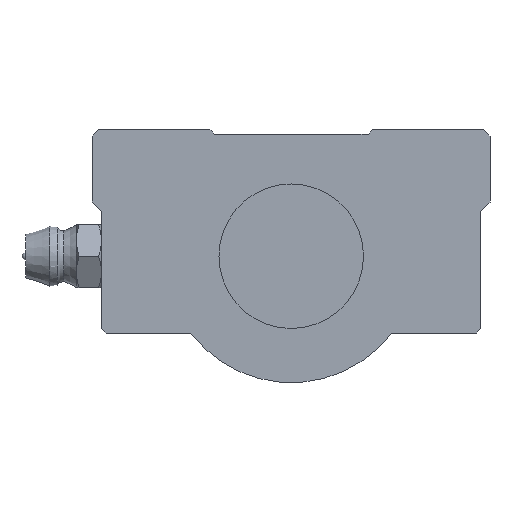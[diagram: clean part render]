
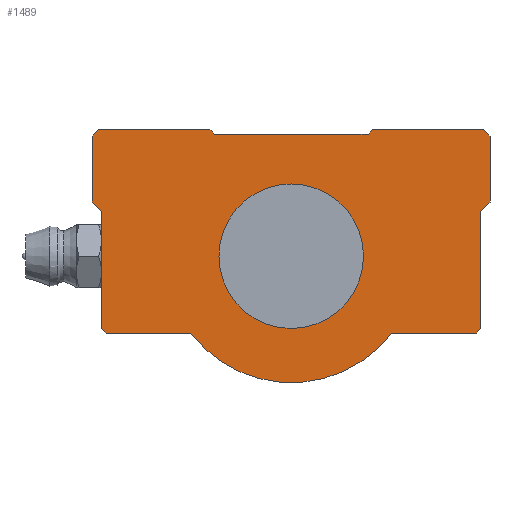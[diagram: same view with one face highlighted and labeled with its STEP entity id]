
A CAD part, left-side view. The second image highlights one B-rep face of the part: STEP entity #1489.
In plain terms, the highlighted planar face has unit normal (-1, 0, 0).
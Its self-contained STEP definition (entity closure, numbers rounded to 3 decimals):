
#1094=CARTESIAN_POINT('',(130.0,20.5,-8.5));
#1095=VERTEX_POINT('',#1094);
#1102=CARTESIAN_POINT('',(130.0,21.,-8.));
#1103=VERTEX_POINT('',#1102);
#1104=CARTESIAN_POINT('',(130.0,20.5,-8.5));
#1105=DIRECTION('',(0.0,0.707,0.707));
#1106=VECTOR('',#1105,0.707);
#1107=LINE('',#1104,#1106);
#1108=EDGE_CURVE('',#1095,#1103,#1107,.T.);
#1133=CARTESIAN_POINT('',(130.0,11.124,-8.5));
#1134=VERTEX_POINT('',#1133);
#1141=CARTESIAN_POINT('',(130.0,11.124,-8.5));
#1142=DIRECTION('',(0.0,1.0,0.0));
#1143=VECTOR('',#1142,9.376);
#1144=LINE('',#1141,#1143);
#1145=EDGE_CURVE('',#1134,#1095,#1144,.T.);
#1326=CARTESIAN_POINT('',(130.0,-21.,-8.));
#1327=VERTEX_POINT('',#1326);
#1334=CARTESIAN_POINT('',(130.0,-20.5,-8.5));
#1335=VERTEX_POINT('',#1334);
#1336=CARTESIAN_POINT('',(130.0,-21.,-8.));
#1337=DIRECTION('',(0.0,0.707,-0.707));
#1338=VECTOR('',#1337,0.707);
#1339=LINE('',#1336,#1338);
#1340=EDGE_CURVE('',#1327,#1335,#1339,.T.);
#1351=CARTESIAN_POINT('',(130.0,-15.5,13.75));
#1352=DIRECTION('',(1.0,0.0,0.0));
#1353=DIRECTION('',(0.0,0.0,-1.0));
#1354=AXIS2_PLACEMENT_3D('',#1351,#1352,#1353);
#1355=PLANE('',#1354);
#1356=ORIENTED_EDGE('',*,*,#1108,.F.);
#1357=ORIENTED_EDGE('',*,*,#1145,.F.);
#1358=CARTESIAN_POINT('',(130.0,-11.124,-8.5));
#1359=VERTEX_POINT('',#1358);
#1360=CARTESIAN_POINT('',(130.0,0.0,0.0));
#1361=DIRECTION('',(1.0,0.0,0.0));
#1362=DIRECTION('',(0.0,-0.795,-0.607));
#1363=AXIS2_PLACEMENT_3D('',#1360,#1361,#1362);
#1364=CIRCLE('',#1363,14.);
#1365=EDGE_CURVE('',#1359,#1134,#1364,.T.);
#1366=ORIENTED_EDGE('',*,*,#1365,.F.);
#1367=CARTESIAN_POINT('',(130.0,-20.5,-8.5));
#1368=DIRECTION('',(0.0,1.0,0.0));
#1369=VECTOR('',#1368,9.376);
#1370=LINE('',#1367,#1369);
#1371=EDGE_CURVE('',#1335,#1359,#1370,.T.);
#1372=ORIENTED_EDGE('',*,*,#1371,.F.);
#1373=ORIENTED_EDGE('',*,*,#1340,.F.);
#1374=CARTESIAN_POINT('',(130.0,-21.,5.));
#1375=VERTEX_POINT('',#1374);
#1376=CARTESIAN_POINT('',(130.0,-21.,5.));
#1377=DIRECTION('',(0.0,0.0,-1.0));
#1378=VECTOR('',#1377,13.);
#1379=LINE('',#1376,#1378);
#1380=EDGE_CURVE('',#1375,#1327,#1379,.T.);
#1381=ORIENTED_EDGE('',*,*,#1380,.F.);
#1382=CARTESIAN_POINT('',(130.0,-22.0,6.));
#1383=VERTEX_POINT('',#1382);
#1384=CARTESIAN_POINT('',(130.0,-22.0,6.));
#1385=DIRECTION('',(0.0,0.707,-0.707));
#1386=VECTOR('',#1385,1.414);
#1387=LINE('',#1384,#1386);
#1388=EDGE_CURVE('',#1383,#1375,#1387,.T.);
#1389=ORIENTED_EDGE('',*,*,#1388,.F.);
#1390=CARTESIAN_POINT('',(130.0,-22.0,13.3));
#1391=VERTEX_POINT('',#1390);
#1392=CARTESIAN_POINT('',(130.0,-22.0,13.3));
#1393=DIRECTION('',(0.0,0.0,-1.0));
#1394=VECTOR('',#1393,7.3);
#1395=LINE('',#1392,#1394);
#1396=EDGE_CURVE('',#1391,#1383,#1395,.T.);
#1397=ORIENTED_EDGE('',*,*,#1396,.F.);
#1398=CARTESIAN_POINT('',(130.0,-21.3,14.));
#1399=VERTEX_POINT('',#1398);
#1400=CARTESIAN_POINT('',(130.0,-21.3,14.));
#1401=DIRECTION('',(0.0,-0.707,-0.707));
#1402=VECTOR('',#1401,0.99);
#1403=LINE('',#1400,#1402);
#1404=EDGE_CURVE('',#1399,#1391,#1403,.T.);
#1405=ORIENTED_EDGE('',*,*,#1404,.F.);
#1406=CARTESIAN_POINT('',(130.0,-9.0,14.));
#1407=VERTEX_POINT('',#1406);
#1408=CARTESIAN_POINT('',(130.0,-9.0,14.));
#1409=DIRECTION('',(0.0,-1.0,0.0));
#1410=VECTOR('',#1409,12.3);
#1411=LINE('',#1408,#1410);
#1412=EDGE_CURVE('',#1407,#1399,#1411,.T.);
#1413=ORIENTED_EDGE('',*,*,#1412,.F.);
#1414=CARTESIAN_POINT('',(130.0,-8.5,13.5));
#1415=VERTEX_POINT('',#1414);
#1416=CARTESIAN_POINT('',(130.0,-8.5,13.5));
#1417=DIRECTION('',(0.0,-0.707,0.707));
#1418=VECTOR('',#1417,0.707);
#1419=LINE('',#1416,#1418);
#1420=EDGE_CURVE('',#1415,#1407,#1419,.T.);
#1421=ORIENTED_EDGE('',*,*,#1420,.F.);
#1422=CARTESIAN_POINT('',(130.0,8.5,13.5));
#1423=VERTEX_POINT('',#1422);
#1424=CARTESIAN_POINT('',(130.0,8.5,13.5));
#1425=DIRECTION('',(0.0,-1.0,0.0));
#1426=VECTOR('',#1425,17.);
#1427=LINE('',#1424,#1426);
#1428=EDGE_CURVE('',#1423,#1415,#1427,.T.);
#1429=ORIENTED_EDGE('',*,*,#1428,.F.);
#1430=CARTESIAN_POINT('',(130.0,9.0,14.));
#1431=VERTEX_POINT('',#1430);
#1432=CARTESIAN_POINT('',(130.0,9.0,14.));
#1433=DIRECTION('',(0.0,-0.707,-0.707));
#1434=VECTOR('',#1433,0.707);
#1435=LINE('',#1432,#1434);
#1436=EDGE_CURVE('',#1431,#1423,#1435,.T.);
#1437=ORIENTED_EDGE('',*,*,#1436,.F.);
#1438=CARTESIAN_POINT('',(130.0,21.3,14.));
#1439=VERTEX_POINT('',#1438);
#1440=CARTESIAN_POINT('',(130.0,21.3,14.));
#1441=DIRECTION('',(0.0,-1.0,0.0));
#1442=VECTOR('',#1441,12.3);
#1443=LINE('',#1440,#1442);
#1444=EDGE_CURVE('',#1439,#1431,#1443,.T.);
#1445=ORIENTED_EDGE('',*,*,#1444,.F.);
#1446=CARTESIAN_POINT('',(130.0,22.0,13.3));
#1447=VERTEX_POINT('',#1446);
#1448=CARTESIAN_POINT('',(130.0,22.0,13.3));
#1449=DIRECTION('',(0.0,-0.707,0.707));
#1450=VECTOR('',#1449,0.99);
#1451=LINE('',#1448,#1450);
#1452=EDGE_CURVE('',#1447,#1439,#1451,.T.);
#1453=ORIENTED_EDGE('',*,*,#1452,.F.);
#1454=CARTESIAN_POINT('',(130.0,22.0,6.));
#1455=VERTEX_POINT('',#1454);
#1456=CARTESIAN_POINT('',(130.0,22.0,6.));
#1457=DIRECTION('',(0.0,0.0,1.0));
#1458=VECTOR('',#1457,7.3);
#1459=LINE('',#1456,#1458);
#1460=EDGE_CURVE('',#1455,#1447,#1459,.T.);
#1461=ORIENTED_EDGE('',*,*,#1460,.F.);
#1462=CARTESIAN_POINT('',(130.0,21.,5.));
#1463=VERTEX_POINT('',#1462);
#1464=CARTESIAN_POINT('',(130.0,21.,5.));
#1465=DIRECTION('',(0.0,0.707,0.707));
#1466=VECTOR('',#1465,1.414);
#1467=LINE('',#1464,#1466);
#1468=EDGE_CURVE('',#1463,#1455,#1467,.T.);
#1469=ORIENTED_EDGE('',*,*,#1468,.F.);
#1470=CARTESIAN_POINT('',(130.0,21.,-8.));
#1471=DIRECTION('',(0.0,0.0,1.0));
#1472=VECTOR('',#1471,13.);
#1473=LINE('',#1470,#1472);
#1474=EDGE_CURVE('',#1103,#1463,#1473,.T.);
#1475=ORIENTED_EDGE('',*,*,#1474,.F.);
#1476=EDGE_LOOP('',(#1356,#1357,#1366,#1372,#1373,#1381,#1389,#1397,#1405,#1413,#1421,#1429,#1437,#1445,#1453,#1461,#1469,#1475));
#1477=FACE_OUTER_BOUND('',#1476,.T.);
#1478=CARTESIAN_POINT('',(130.0,8.0,0.));
#1479=VERTEX_POINT('',#1478);
#1480=CARTESIAN_POINT('',(130.0,0.0,0.0));
#1481=DIRECTION('',(1.0,0.0,0.0));
#1482=DIRECTION('',(0.0,-1.0,0.0));
#1483=AXIS2_PLACEMENT_3D('',#1480,#1481,#1482);
#1484=CIRCLE('',#1483,8.0);
#1485=EDGE_CURVE('',#1479,#1479,#1484,.T.);
#1486=ORIENTED_EDGE('',*,*,#1485,.T.);
#1487=EDGE_LOOP('',(#1486));
#1488=FACE_BOUND('',#1487,.T.);
#1489=ADVANCED_FACE('',(#1477,#1488),#1355,.F.);
